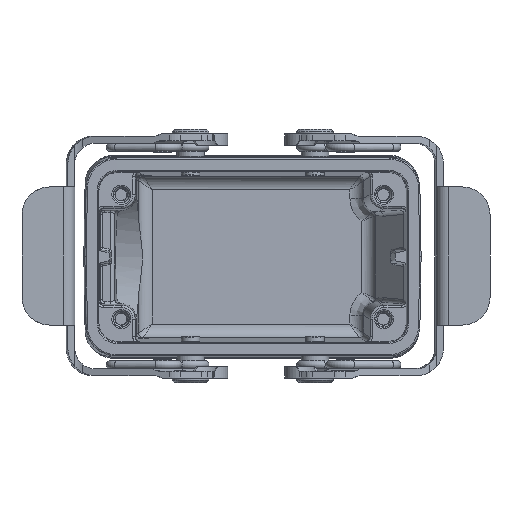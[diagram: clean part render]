
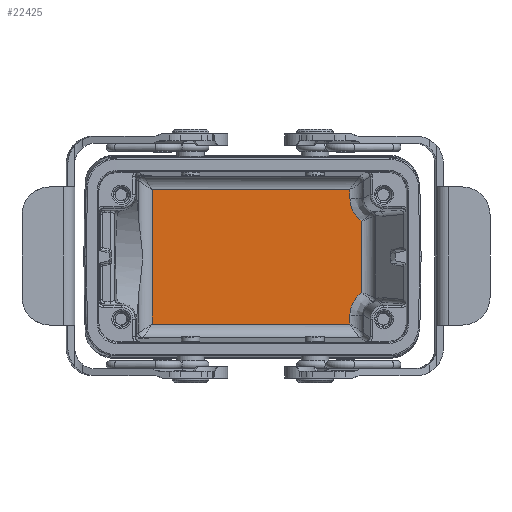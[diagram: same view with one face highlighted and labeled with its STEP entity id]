
A CAD part, front view. The second image highlights one B-rep face of the part: STEP entity #22425.
In plain terms, the highlighted planar face has unit normal (0.009, -1, 0).
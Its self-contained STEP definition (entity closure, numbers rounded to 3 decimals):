
#94 = VERTEX_POINT ( 'NONE', #10960 ) ;
#240 = B_SPLINE_CURVE_WITH_KNOTS ( 'NONE', 3,
 ( #1487, #6499, #16721, #26635 ),
 .UNSPECIFIED., .F., .F.,
 ( 4, 4 ),
 ( 0., 1. ),
 .UNSPECIFIED. ) ;
#1384 = CARTESIAN_POINT ( 'NONE',  ( 22.583, 70.186, -8.937 ) ) ;
#1487 = CARTESIAN_POINT ( 'NONE',  ( 21.102, 70.173, 14.364 ) ) ;
#1723 = CARTESIAN_POINT ( 'NONE',  ( 21.136, 70.173, -12.099 ) ) ;
#1828 = CARTESIAN_POINT ( 'NONE',  ( 22.415, 70.185, -9.135 ) ) ;
#2146 = CARTESIAN_POINT ( 'NONE',  ( -0.588, 69.973, 14.364 ) ) ;
#2977 = VERTEX_POINT ( 'NONE', #7812 ) ;
#3202 = ORIENTED_EDGE ( 'NONE', *, *, #12177, .F. ) ;
#3312 = CARTESIAN_POINT ( 'NONE',  ( -0.588, 69.973, -0.2 ) ) ;
#4027 = VECTOR ( 'NONE', #6123, 1000. ) ;
#4161 = CARTESIAN_POINT ( 'NONE',  ( 23.398, 70.194, 7.76 ) ) ;
#4376 = CARTESIAN_POINT ( 'NONE',  ( 21.748, 70.179, 9.782 ) ) ;
#4818 = VERTEX_POINT ( 'NONE', #11709 ) ;
#4883 = LINE ( 'NONE', #7605, #9271 ) ;
#5195 = ORIENTED_EDGE ( 'NONE', *, *, #29481, .F. ) ;
#5641 = VECTOR ( 'NONE', #20902, 1000. ) ;
#6123 = DIRECTION ( 'NONE',  ( 1., 0.009, 0. ) ) ;
#6499 = CARTESIAN_POINT ( 'NONE',  ( 21.102, 70.173, 13.74 ) ) ;
#6597 = CARTESIAN_POINT ( 'NONE',  ( 21.351, 70.175, 10.762 ) ) ;
#6825 = CARTESIAN_POINT ( 'NONE',  ( 21.134, 70.173, 11.716 ) ) ;
#6850 = VERTEX_POINT ( 'NONE', #21346 ) ;
#7596 = DIRECTION ( 'NONE',  ( 1., 0.009, 0. ) ) ;
#7605 = CARTESIAN_POINT ( 'NONE',  ( 21.102, 70.173, -0.2 ) ) ;
#7812 = CARTESIAN_POINT ( 'NONE',  ( -21.814, 69.777, -14.764 ) ) ;
#8096 = ORIENTED_EDGE ( 'NONE', *, *, #12367, .F. ) ;
#8759 = DIRECTION ( 'NONE',  ( 0., 0., 1. ) ) ;
#8993 = VECTOR ( 'NONE', #9137, 1000. ) ;
#9087 = VERTEX_POINT ( 'NONE', #26195 ) ;
#9137 = DIRECTION ( 'NONE',  ( 0., 0., -1. ) ) ;
#9270 = CARTESIAN_POINT ( 'NONE',  ( 22.416, 70.185, 8.713 ) ) ;
#9271 = VECTOR ( 'NONE', #32739, 1000. ) ;
#9375 = CARTESIAN_POINT ( 'NONE',  ( 21.536, 70.177, 10.247 ) ) ;
#10891 = CARTESIAN_POINT ( 'NONE',  ( 131.069, 71.187, -14.764 ) ) ;
#10960 = CARTESIAN_POINT ( 'NONE',  ( -21.814, 69.777, 14.364 ) ) ;
#10963 = LINE ( 'NONE', #2146, #20511 ) ;
#11171 = EDGE_CURVE ( 'NONE', #18525, #4818, #240, .T. ) ;
#11709 = CARTESIAN_POINT ( 'NONE',  ( 21.102, 70.173, 12.491 ) ) ;
#11923 = CARTESIAN_POINT ( 'NONE',  ( 22.089, 70.182, -9.591 ) ) ;
#12177 = EDGE_CURVE ( 'NONE', #94, #18525, #10963, .T. ) ;
#12367 = EDGE_CURVE ( 'NONE', #30061, #9087, #21730, .T. ) ;
#12706 = ORIENTED_EDGE ( 'NONE', *, *, #18879, .F. ) ;
#13056 = EDGE_CURVE ( 'NONE', #9087, #6850, #31658, .T. ) ;
#13515 = ORIENTED_EDGE ( 'NONE', *, *, #13056, .F. ) ;
#13559 = LINE ( 'NONE', #10891, #4027 ) ;
#14160 = CARTESIAN_POINT ( 'NONE',  ( 21.103, 70.173, -12.524 ) ) ;
#14261 = CARTESIAN_POINT ( 'NONE',  ( 21.338, 70.175, -11.158 ) ) ;
#14366 = CARTESIAN_POINT ( 'NONE',  ( 21.715, 70.178, 9.849 ) ) ;
#14388 = ORIENTED_EDGE ( 'NONE', *, *, #11171, .F. ) ;
#14474 = CARTESIAN_POINT ( 'NONE',  ( 21.102, 70.173, 12.491 ) ) ;
#14492 = CARTESIAN_POINT ( 'NONE',  ( 22.169, 70.183, -9.472 ) ) ;
#14813 = EDGE_LOOP ( 'NONE', ( #5195, #27158, #15367, #13515, #8096, #12706, #14388, #3202 ) ) ;
#15367 = ORIENTED_EDGE ( 'NONE', *, *, #32978, .F. ) ;
#15548 = CARTESIAN_POINT ( 'NONE',  ( -21.814, 69.777, -0.2 ) ) ;
#16711 = CARTESIAN_POINT ( 'NONE',  ( 23.67, 70.197, 7.57 ) ) ;
#16721 = CARTESIAN_POINT ( 'NONE',  ( 21.102, 70.173, 13.115 ) ) ;
#16839 = CARTESIAN_POINT ( 'NONE',  ( 23.079, 70.191, -8.414 ) ) ;
#16940 = CARTESIAN_POINT ( 'NONE',  ( 21.819, 70.179, -10.046 ) ) ;
#17033 = CARTESIAN_POINT ( 'NONE',  ( 21.765, 70.179, 9.75 ) ) ;
#17047 = CARTESIAN_POINT ( 'NONE',  ( 21.8, 70.179, -10.082 ) ) ;
#17387 = VERTEX_POINT ( 'NONE', #24479 ) ;
#17700 = EDGE_CURVE ( 'NONE', #2977, #17387, #13559, .T. ) ;
#17787 = FACE_OUTER_BOUND ( 'NONE', #14813, .T. ) ;
#18525 = VERTEX_POINT ( 'NONE', #32979 ) ;
#18544 = PLANE ( 'NONE',  #31682 ) ;
#18879 = EDGE_CURVE ( 'NONE', #4818, #30061, #31464, .T. ) ;
#19604 = CARTESIAN_POINT ( 'NONE',  ( 22.074, 70.182, 9.157 ) ) ;
#20511 = VECTOR ( 'NONE', #7596, 1000. ) ;
#20902 = DIRECTION ( 'NONE',  ( 0., 0., 1. ) ) ;
#21346 = CARTESIAN_POINT ( 'NONE',  ( 21.102, 70.173, -12.891 ) ) ;
#21730 = LINE ( 'NONE', #29064, #8993 ) ;
#22187 = CARTESIAN_POINT ( 'NONE',  ( 21.971, 70.181, -9.78 ) ) ;
#22359 = LINE ( 'NONE', #15548, #5641 ) ;
#22425 = ADVANCED_FACE ( 'NONE', ( #17787 ), #18544, .F. ) ;
#24387 = CARTESIAN_POINT ( 'NONE',  ( 21.699, 70.178, 9.883 ) ) ;
#24479 = CARTESIAN_POINT ( 'NONE',  ( 21.102, 70.173, -14.764 ) ) ;
#24612 = CARTESIAN_POINT ( 'NONE',  ( 21.485, 70.176, 10.377 ) ) ;
#24630 = CARTESIAN_POINT ( 'NONE',  ( 23.67, 70.197, -7.969 ) ) ;
#24721 = CARTESIAN_POINT ( 'NONE',  ( 23.078, 70.191, 8.015 ) ) ;
#24740 = CARTESIAN_POINT ( 'NONE',  ( 21.857, 70.18, -9.978 ) ) ;
#26195 = CARTESIAN_POINT ( 'NONE',  ( 23.67, 70.197, -7.969 ) ) ;
#26433 = DIRECTION ( 'NONE',  ( -0.009, 1., 0. ) ) ;
#26635 = CARTESIAN_POINT ( 'NONE',  ( 21.102, 70.173, 12.491 ) ) ;
#27052 = CARTESIAN_POINT ( 'NONE',  ( 21.651, 70.178, 9.983 ) ) ;
#27069 = CARTESIAN_POINT ( 'NONE',  ( 21.508, 70.177, -10.643 ) ) ;
#27158 = ORIENTED_EDGE ( 'NONE', *, *, #17700, .T. ) ;
#27164 = CARTESIAN_POINT ( 'NONE',  ( 21.621, 70.178, 10.049 ) ) ;
#29064 = CARTESIAN_POINT ( 'NONE',  ( 23.67, 70.197, 7.57 ) ) ;
#29307 = CARTESIAN_POINT ( 'NONE',  ( 23.398, 70.194, -8.159 ) ) ;
#29481 = EDGE_CURVE ( 'NONE', #2977, #94, #22359, .T. ) ;
#29644 = CARTESIAN_POINT ( 'NONE',  ( 21.102, 70.173, -12.891 ) ) ;
#29842 = CARTESIAN_POINT ( 'NONE',  ( 21.283, 70.175, 11.01 ) ) ;
#30061 = VERTEX_POINT ( 'NONE', #31047 ) ;
#31047 = CARTESIAN_POINT ( 'NONE',  ( 23.67, 70.197, 7.57 ) ) ;
#31464 = B_SPLINE_CURVE_WITH_KNOTS ( 'NONE', 3,
 ( #14474, #32287, #6825, #29842, #6597, #24612, #9375, #27164, #27052, #24387, #14366, #4376, #17033, #19604, #9270, #24721, #4161, #16711 ),
 .UNSPECIFIED., .F., .F.,
 ( 4, 2, 2, 2, 2, 2, 2, 2, 4 ),
 ( 0., 0.25, 0.375, 0.438, 0.469, 0.484, 0.5, 0.75, 1. ),
 .UNSPECIFIED. ) ;
#31658 = B_SPLINE_CURVE_WITH_KNOTS ( 'NONE', 3,
 ( #24630, #29307, #16839, #1384, #1828, #14492, #11923, #22187, #32305, #24740, #16940, #17047, #27069, #14261, #1723, #14160, #29644 ),
 .UNSPECIFIED., .F., .F.,
 ( 4, 2, 2, 2, 1, 2, 2, 2, 4 ),
 ( 0., 0.25, 0.375, 0.438, 0.469, 0.484, 0.5, 0.75, 1. ),
 .UNSPECIFIED. ) ;
#31682 = AXIS2_PLACEMENT_3D ( 'NONE', #3312, #26433, #8759 ) ;
#32287 = CARTESIAN_POINT ( 'NONE',  ( 21.103, 70.173, 12.136 ) ) ;
#32305 = CARTESIAN_POINT ( 'NONE',  ( 21.913, 70.18, -9.877 ) ) ;
#32739 = DIRECTION ( 'NONE',  ( 0., 0., -1. ) ) ;
#32978 = EDGE_CURVE ( 'NONE', #6850, #17387, #4883, .T. ) ;
#32979 = CARTESIAN_POINT ( 'NONE',  ( 21.102, 70.173, 14.364 ) ) ;
